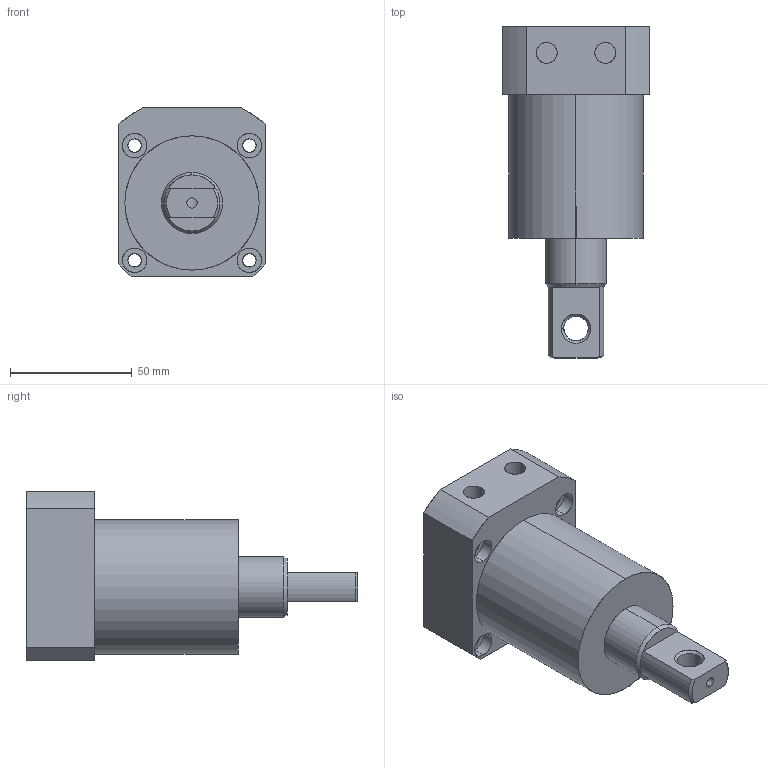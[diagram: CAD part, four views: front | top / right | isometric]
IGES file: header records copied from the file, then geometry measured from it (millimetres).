
Start section: SolidWorks IGES file using analytic representation for surfaces
Global section: file name: E:\karthik\CLASYS\Pneumatic Swing cylinders\Bottom cyl 0312-P\0312-0551\55.IGS; native system: SolidWorks 2010; preprocessor: SolidWorks 2010; author: karthik; date: 130914.165111; units: millimetre
Bounding box: 60 x 136 x 69 mm (x, y, z)
Surface area: 33005.1 mm2 (no closed solid volume)
Topology: 0 solids, 0 shells, 75 faces, 1406 edges, 1406 vertices
Faces by surface type: revolution 52, bspline 23
